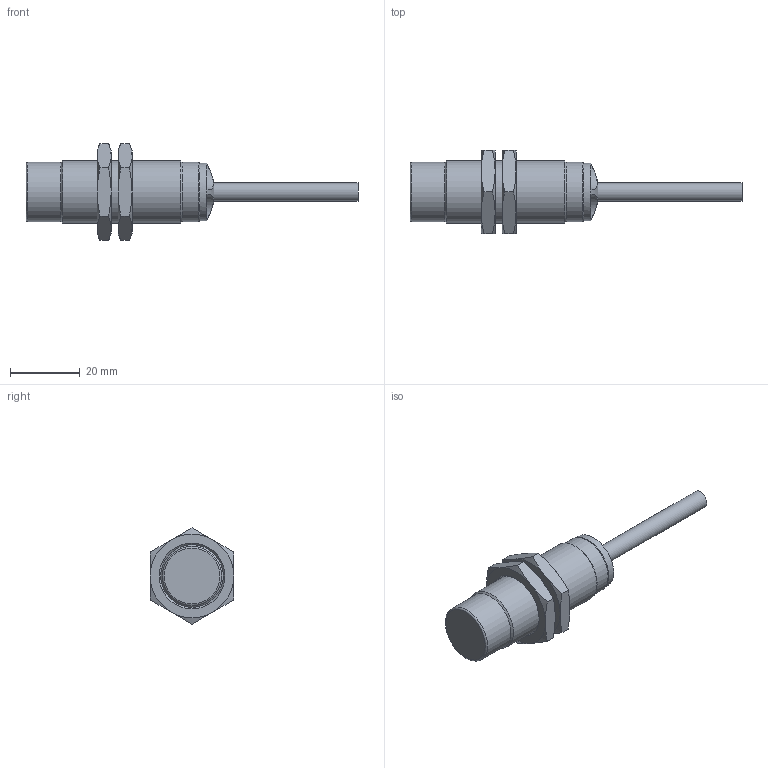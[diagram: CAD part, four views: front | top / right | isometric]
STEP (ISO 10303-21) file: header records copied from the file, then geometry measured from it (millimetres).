
FILE_DESCRIPTION((''),'2;1');
FILE_NAME('C:\TurckZip\Ni-M18-X.stp','2007-11-26T13:43:17',('IKOROL'),(''),'Autodesk Inventor 2008','Autodesk Inventor 2008','');
FILE_SCHEMA(('AUTOMOTIVE_DESIGN { 1 2 10303 214 0 1 1 1 }'));
Length unit declared in the file: millimetre
Products named in the file (1): Part1
Bounding box: 95.5 x 24 x 27.71 mm (x, y, z)
Volume: 15132.9 mm3; surface area: 6050.1 mm2
Topology: 1 solids, 1 shells, 87 faces, 189 edges, 115 vertices
Faces by surface type: plane 37, cone 30, cylinder 17, torus 2, bspline 1
Full cylindrical faces by diameter (mm): 2.4 x1, 2.8 x2, 3.3 x1, 3.42 x1, 5.2 x1, 5.7 x1, 16.5 x1, 17 x2, 18 x3
Entity records: 2352 total; most frequent: CARTESIAN_POINT 584, DIRECTION 336, ORIENTED_EDGE 310, EDGE_CURVE 155, AXIS2_PLACEMENT_3D 154, EDGE_LOOP 120, VERTEX_POINT 103, STYLED_ITEM 88
